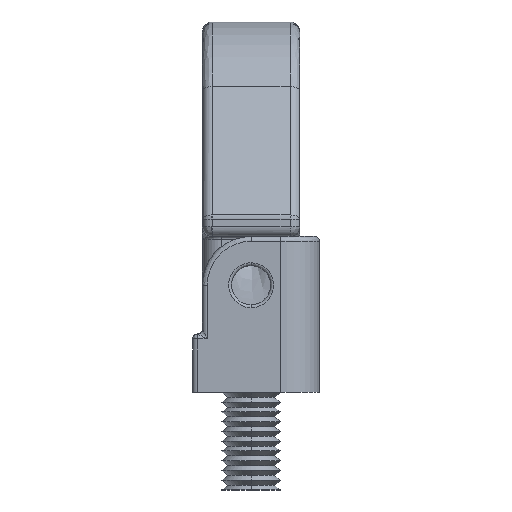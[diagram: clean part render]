
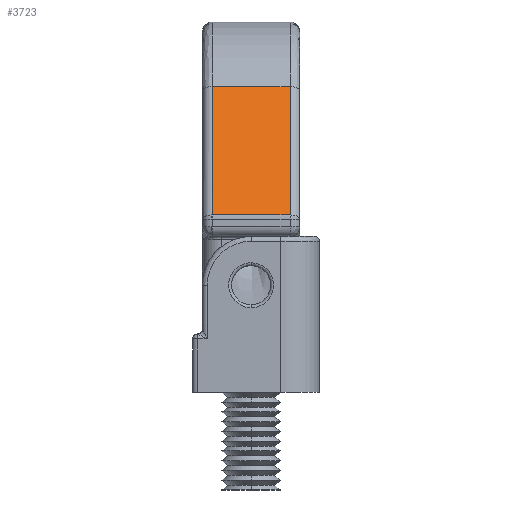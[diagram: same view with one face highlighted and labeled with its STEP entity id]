
A CAD part, left-side view. The second image highlights one B-rep face of the part: STEP entity #3723.
In plain terms, the highlighted planar face has unit normal (-0.894, 0, 0.447).
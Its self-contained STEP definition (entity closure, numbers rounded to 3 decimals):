
#417 = VERTEX_POINT ( 'NONE', #5262 ) ;
#451 = VERTEX_POINT ( 'NONE', #5296 ) ;
#840 = VERTEX_POINT ( 'NONE', #6212 ) ;
#1168 = VERTEX_POINT ( 'NONE', #13227 ) ;
#2378 = EDGE_LOOP ( 'NONE', ( #3091, #3092, #3093, #3094 ) ) ;
#2853 = EDGE_CURVE ( 'NONE', #840, #1168, #14523, .T. ) ;
#3091 = ORIENTED_EDGE ( 'NONE', *, *, #3639, .T. ) ;
#3092 = ORIENTED_EDGE ( 'NONE', *, *, #3640, .T. ) ;
#3093 = ORIENTED_EDGE ( 'NONE', *, *, #2853, .F. ) ;
#3094 = ORIENTED_EDGE ( 'NONE', *, *, #3641, .T. ) ;
#3639 = EDGE_CURVE ( 'NONE', #417, #451, #15380, .T. ) ;
#3640 = EDGE_CURVE ( 'NONE', #451, #1168, #15385, .T. ) ;
#3641 = EDGE_CURVE ( 'NONE', #840, #417, #15393, .T. ) ;
#3723 = ADVANCED_FACE ( 'NONE', ( #16032 ), #16411, .T. ) ;
#5262 = CARTESIAN_POINT ( 'NONE',  ( 62.867, -243.984, -210.304 ) ) ;
#5296 = CARTESIAN_POINT ( 'NONE',  ( 69.444, -243.984, -197.149 ) ) ;
#6212 = CARTESIAN_POINT ( 'NONE',  ( 62.867, -235.984, -210.304 ) ) ;
#13227 = CARTESIAN_POINT ( 'NONE',  ( 69.444, -235.984, -197.149 ) ) ;
#14519 = CARTESIAN_POINT ( 'NONE',  ( 73.761, -235.984, -188.515 ) ) ;
#14523 = LINE ( 'NONE', #14519, #14850 ) ;
#14530 = DIRECTION ( 'NONE',  ( 0.447, 0., 0.894 ) ) ;
#14850 = VECTOR ( 'NONE', #14530, 1000. ) ;
#15380 = LINE ( 'NONE', #15381, #16145 ) ;
#15381 = CARTESIAN_POINT ( 'NONE',  ( 67.761, -243.984, -200.515 ) ) ;
#15385 = LINE ( 'NONE', #15391, #16139 ) ;
#15390 = DIRECTION ( 'NONE',  ( 0.447, 0., 0.894 ) ) ;
#15391 = CARTESIAN_POINT ( 'NONE',  ( 69.444, -239.984, -197.149 ) ) ;
#15392 = DIRECTION ( 'NONE',  ( 0., 1., 0. ) ) ;
#15393 = LINE ( 'NONE', #15394, #16148 ) ;
#15394 = CARTESIAN_POINT ( 'NONE',  ( 62.867, -239.984, -210.304 ) ) ;
#15395 = DIRECTION ( 'NONE',  ( 0., -1., 0. ) ) ;
#16032 = FACE_OUTER_BOUND ( 'NONE', #2378, .T. ) ;
#16139 = VECTOR ( 'NONE', #15392, 1000. ) ;
#16145 = VECTOR ( 'NONE', #15390, 1000. ) ;
#16148 = VECTOR ( 'NONE', #15395, 1000. ) ;
#16220 = AXIS2_PLACEMENT_3D ( 'NONE', #16413, #16414, #16415 ) ;
#16411 = PLANE ( 'NONE',  #16220 ) ;
#16413 = CARTESIAN_POINT ( 'NONE',  ( 67.761, -239.984, -200.515 ) ) ;
#16414 = DIRECTION ( 'NONE',  ( -0.894, 0., 0.447 ) ) ;
#16415 = DIRECTION ( 'NONE',  ( -0.447, 0., -0.894 ) ) ;
